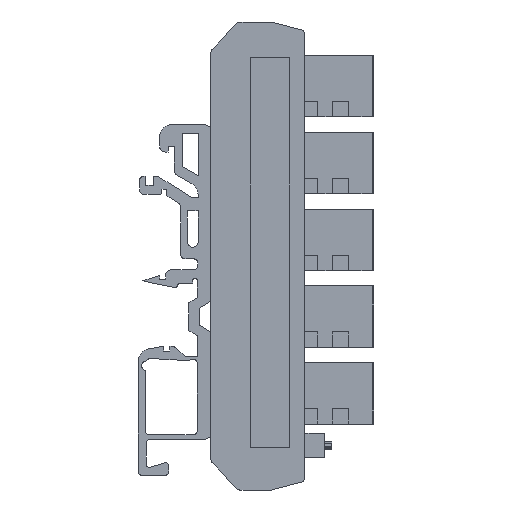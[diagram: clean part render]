
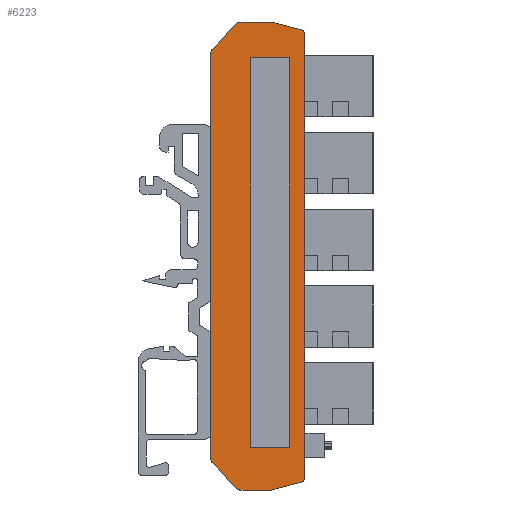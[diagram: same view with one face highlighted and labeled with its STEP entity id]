
A CAD part, front view. The second image highlights one B-rep face of the part: STEP entity #6223.
In plain terms, the highlighted planar face has unit normal (0, -1, 0).
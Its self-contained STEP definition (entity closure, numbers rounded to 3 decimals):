
#6223=ADVANCED_FACE('',(#21215,#21217),#21219,.F.);
#21215=FACE_BOUND('',#21216,.T.);
#21216=EDGE_LOOP('',(#36777,#36778,#36779,#36780,#36781,#36782,#36783,#36784,#36785,
#36786,#36787,#36788,#36789,#36790));
#21217=FACE_BOUND('',#21218,.T.);
#21218=EDGE_LOOP('',(#36791,#36792,#36793,#36794));
#21219=PLANE('',#21220);
#21220=AXIS2_PLACEMENT_3D('',#21221,#21222,#21223);
#21221=CARTESIAN_POINT('',(15.5,-11.25,37.25));
#21222=DIRECTION('',(0.,1.,0.));
#21223=DIRECTION('',(1.,0.,0.));
#36777=ORIENTED_EDGE('',*,*,#47541,.F.);
#36778=ORIENTED_EDGE('',*,*,#47542,.F.);
#36779=ORIENTED_EDGE('',*,*,#47543,.F.);
#36780=ORIENTED_EDGE('',*,*,#47544,.F.);
#36781=ORIENTED_EDGE('',*,*,#47545,.F.);
#36782=ORIENTED_EDGE('',*,*,#47546,.F.);
#36783=ORIENTED_EDGE('',*,*,#46943,.F.);
#36784=ORIENTED_EDGE('',*,*,#47540,.F.);
#36785=ORIENTED_EDGE('',*,*,#47547,.F.);
#36786=ORIENTED_EDGE('',*,*,#47548,.F.);
#36787=ORIENTED_EDGE('',*,*,#47549,.F.);
#36788=ORIENTED_EDGE('',*,*,#47550,.F.);
#36789=ORIENTED_EDGE('',*,*,#47551,.F.);
#36790=ORIENTED_EDGE('',*,*,#47552,.F.);
#36791=ORIENTED_EDGE('',*,*,#47553,.T.);
#36792=ORIENTED_EDGE('',*,*,#47554,.T.);
#36793=ORIENTED_EDGE('',*,*,#47555,.T.);
#36794=ORIENTED_EDGE('',*,*,#47556,.T.);
#46943=EDGE_CURVE('',#54660,#54662,#54663,.T.);
#47540=EDGE_CURVE('',#55729,#54660,#55731,.T.);
#47541=EDGE_CURVE('',#55732,#55733,#55734,.T.);
#47542=EDGE_CURVE('',#55735,#55732,#55736,.T.);
#47543=EDGE_CURVE('',#55737,#55735,#55738,.T.);
#47544=EDGE_CURVE('',#55739,#55737,#55740,.T.);
#47545=EDGE_CURVE('',#55741,#55739,#55742,.T.);
#47546=EDGE_CURVE('',#54662,#55741,#55743,.T.);
#47547=EDGE_CURVE('',#55744,#55729,#55745,.T.);
#47548=EDGE_CURVE('',#55746,#55744,#55747,.T.);
#47549=EDGE_CURVE('',#55748,#55746,#55749,.T.);
#47550=EDGE_CURVE('',#55750,#55748,#55751,.T.);
#47551=EDGE_CURVE('',#55752,#55750,#55753,.T.);
#47552=EDGE_CURVE('',#55733,#55752,#55754,.T.);
#47553=EDGE_CURVE('',#55755,#55756,#55757,.T.);
#47554=EDGE_CURVE('',#55756,#55758,#55759,.T.);
#47555=EDGE_CURVE('',#55758,#55760,#55761,.T.);
#47556=EDGE_CURVE('',#55760,#55755,#55762,.T.);
#54660=VERTEX_POINT('',#67055);
#54662=VERTEX_POINT('',#67059);
#54663=LINE('',#67060,#67061);
#55729=VERTEX_POINT('',#69418);
#55731=CIRCLE('',#69422,0.7);
#55732=VERTEX_POINT('',#69426);
#55733=VERTEX_POINT('',#69427);
#55734=CIRCLE('',#69428,0.7);
#55735=VERTEX_POINT('',#69432);
#55736=LINE('',#69433,#69434);
#55737=VERTEX_POINT('',#69436);
#55738=CIRCLE('',#69437,0.7);
#55739=VERTEX_POINT('',#69441);
#55740=LINE('',#69442,#69443);
#55741=VERTEX_POINT('',#69445);
#55742=LINE('',#69446,#69447);
#55743=CIRCLE('',#69449,0.7);
#55744=VERTEX_POINT('',#69453);
#55745=LINE('',#69454,#69455);
#55746=VERTEX_POINT('',#69457);
#55747=LINE('',#69458,#69459);
#55748=VERTEX_POINT('',#69461);
#55749=CIRCLE('',#69462,0.7);
#55750=VERTEX_POINT('',#69466);
#55751=LINE('',#69467,#69468);
#55752=VERTEX_POINT('',#69470);
#55753=CIRCLE('',#69471,0.7);
#55754=LINE('',#69475,#69476);
#55755=VERTEX_POINT('',#69478);
#55756=VERTEX_POINT('',#69479);
#55757=LINE('',#69480,#69481);
#55758=VERTEX_POINT('',#69483);
#55759=LINE('',#69484,#69485);
#55760=VERTEX_POINT('',#69487);
#55761=LINE('',#69488,#69489);
#55762=LINE('',#69491,#69492);
#67055=CARTESIAN_POINT('',(15.5,-11.25,36.711));
#67059=CARTESIAN_POINT('',(15.5,-11.25,-36.711));
#67060=CARTESIAN_POINT('',(15.5,-11.25,36.711));
#67061=VECTOR('',#67062,1.);
#67062=DIRECTION('',(0.,0.,-1.));
#69418=CARTESIAN_POINT('',(14.978,-11.25,37.388));
#69422=AXIS2_PLACEMENT_3D('',#69423,#69424,#69425);
#69423=CARTESIAN_POINT('',(14.8,-11.25,36.711));
#69424=DIRECTION('',(0.,1.,0.));
#69425=DIRECTION('',(0.255,0.,0.967));
#69426=CARTESIAN_POINT('',(0.194,-11.25,-34.203));
#69427=CARTESIAN_POINT('',(0.,-11.25,-33.719));
#69428=AXIS2_PLACEMENT_3D('',#69429,#69430,#69431);
#69429=CARTESIAN_POINT('',(0.7,-11.25,-33.719));
#69430=DIRECTION('',(0.,1.,0.));
#69431=DIRECTION('',(-0.722,0.,-0.692));
#69432=CARTESIAN_POINT('',(4.293,-11.25,-38.484));
#69433=CARTESIAN_POINT('',(4.293,-11.25,-38.484));
#69434=VECTOR('',#69435,1.);
#69435=DIRECTION('',(-0.692,0.,0.722));
#69436=CARTESIAN_POINT('',(4.799,-11.25,-38.7));
#69437=AXIS2_PLACEMENT_3D('',#69438,#69439,#69440);
#69438=CARTESIAN_POINT('',(4.799,-11.25,-38.));
#69439=DIRECTION('',(0.,1.,0.));
#69440=DIRECTION('',(0.,0.,-1.));
#69441=CARTESIAN_POINT('',(10.,-11.25,-38.7));
#69442=CARTESIAN_POINT('',(10.,-11.25,-38.7));
#69443=VECTOR('',#69444,1.);
#69444=DIRECTION('',(-1.,0.,0.));
#69445=CARTESIAN_POINT('',(14.978,-11.25,-37.388));
#69446=CARTESIAN_POINT('',(14.978,-11.25,-37.388));
#69447=VECTOR('',#69448,1.);
#69448=DIRECTION('',(-0.967,0.,-0.255));
#69449=AXIS2_PLACEMENT_3D('',#69450,#69451,#69452);
#69450=CARTESIAN_POINT('',(14.8,-11.25,-36.711));
#69451=DIRECTION('',(0.,1.,0.));
#69452=DIRECTION('',(1.,0.,0.));
#69453=CARTESIAN_POINT('',(10.,-11.25,38.7));
#69454=CARTESIAN_POINT('',(10.,-11.25,38.7));
#69455=VECTOR('',#69456,1.);
#69456=DIRECTION('',(0.967,0.,-0.255));
#69457=CARTESIAN_POINT('',(4.799,-11.25,38.7));
#69458=CARTESIAN_POINT('',(4.799,-11.25,38.7));
#69459=VECTOR('',#69460,1.);
#69460=DIRECTION('',(1.,0.,0.));
#69461=CARTESIAN_POINT('',(4.293,-11.25,38.484));
#69462=AXIS2_PLACEMENT_3D('',#69463,#69464,#69465);
#69463=CARTESIAN_POINT('',(4.799,-11.25,38.));
#69464=DIRECTION('',(0.,1.,0.));
#69465=DIRECTION('',(-0.722,0.,0.692));
#69466=CARTESIAN_POINT('',(0.194,-11.25,34.203));
#69467=CARTESIAN_POINT('',(0.194,-11.25,34.203));
#69468=VECTOR('',#69469,1.);
#69469=DIRECTION('',(0.692,0.,0.722));
#69470=CARTESIAN_POINT('',(0.,-11.25,33.719));
#69471=AXIS2_PLACEMENT_3D('',#69472,#69473,#69474);
#69472=CARTESIAN_POINT('',(0.7,-11.25,33.719));
#69473=DIRECTION('',(0.,1.,0.));
#69474=DIRECTION('',(-1.,0.,0.));
#69475=CARTESIAN_POINT('',(0.,-11.25,-33.719));
#69476=VECTOR('',#69477,1.);
#69477=DIRECTION('',(0.,0.,1.));
#69478=CARTESIAN_POINT('',(13.,-11.25,32.8));
#69479=CARTESIAN_POINT('',(13.,-11.25,-31.7));
#69480=CARTESIAN_POINT('',(13.,-11.25,32.8));
#69481=VECTOR('',#69482,1.);
#69482=DIRECTION('',(0.,0.,-1.));
#69483=CARTESIAN_POINT('',(6.5,-11.25,-31.7));
#69484=CARTESIAN_POINT('',(13.,-11.25,-31.7));
#69485=VECTOR('',#69486,1.);
#69486=DIRECTION('',(-1.,0.,0.));
#69487=CARTESIAN_POINT('',(6.5,-11.25,32.8));
#69488=CARTESIAN_POINT('',(6.5,-11.25,-31.7));
#69489=VECTOR('',#69490,1.);
#69490=DIRECTION('',(0.,0.,1.));
#69491=CARTESIAN_POINT('',(6.5,-11.25,32.8));
#69492=VECTOR('',#69493,1.);
#69493=DIRECTION('',(1.,0.,0.));
